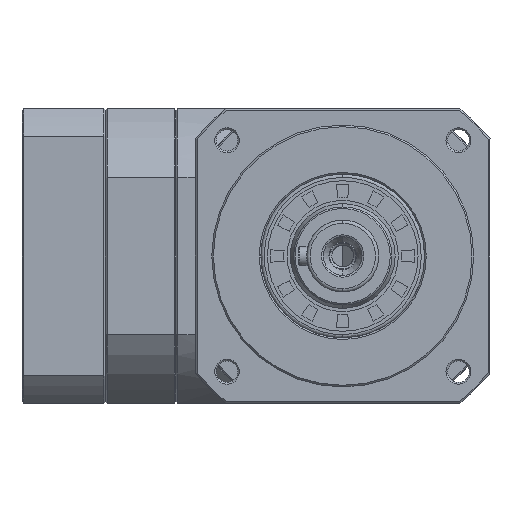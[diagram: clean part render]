
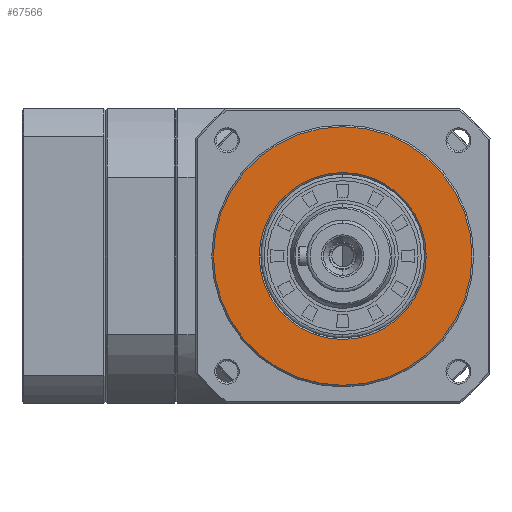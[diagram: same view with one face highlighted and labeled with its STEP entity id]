
A CAD part, left-side view. The second image highlights one B-rep face of the part: STEP entity #67566.
In plain terms, the highlighted planar face has unit normal (-1, 0, 0).
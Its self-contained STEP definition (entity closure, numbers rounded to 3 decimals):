
#3720 = DIRECTION ( 'NONE',  ( -1., 0., 0. ) ) ;
#4456 = CARTESIAN_POINT ( 'NONE',  ( 0., 0., -25.5 ) ) ;
#6490 = CIRCLE ( 'NONE', #56086, 39.5 ) ;
#7104 = VERTEX_POINT ( 'NONE', #82522 ) ;
#10595 = ORIENTED_EDGE ( 'NONE', *, *, #92698, .T. ) ;
#11168 = DIRECTION ( 'NONE',  ( 0., 0., -1. ) ) ;
#11814 = CARTESIAN_POINT ( 'NONE',  ( 0., -39.974, 39.974 ) ) ;
#11929 = DIRECTION ( 'NONE',  ( -1., 0., 0. ) ) ;
#12105 = DIRECTION ( 'NONE',  ( 0., 0., 1. ) ) ;
#15037 = ORIENTED_EDGE ( 'NONE', *, *, #78787, .F. ) ;
#16998 = FACE_OUTER_BOUND ( 'NONE', #40376, .T. ) ;
#18705 = PLANE ( 'NONE',  #81249 ) ;
#18746 = EDGE_CURVE ( 'NONE', #7104, #25894, #6490, .T. ) ;
#21996 = CIRCLE ( 'NONE', #22295, 39.5 ) ;
#22295 = AXIS2_PLACEMENT_3D ( 'NONE', #33266, #11929, #83084 ) ;
#25534 = CARTESIAN_POINT ( 'NONE',  ( 0., 0., 25.5 ) ) ;
#25894 = VERTEX_POINT ( 'NONE', #26525 ) ;
#26525 = CARTESIAN_POINT ( 'NONE',  ( 0., 0., -39.5 ) ) ;
#28411 = VERTEX_POINT ( 'NONE', #4456 ) ;
#29100 = ORIENTED_EDGE ( 'NONE', *, *, #18746, .T. ) ;
#32238 = CARTESIAN_POINT ( 'NONE',  ( 0., 0., 0. ) ) ;
#33266 = CARTESIAN_POINT ( 'NONE',  ( 0., 0., 0. ) ) ;
#39717 = DIRECTION ( 'NONE',  ( 0., 0., -1. ) ) ;
#40027 = CARTESIAN_POINT ( 'NONE',  ( 0., 0., 0. ) ) ;
#40376 = EDGE_LOOP ( 'NONE', ( #10595, #29100 ) ) ;
#47206 = DIRECTION ( 'NONE',  ( -1., 0., 0. ) ) ;
#49573 = FACE_BOUND ( 'NONE', #78073, .T. ) ;
#53820 = DIRECTION ( 'NONE',  ( 0., 0., 1. ) ) ;
#55037 = DIRECTION ( 'NONE',  ( -1., 0., 0. ) ) ;
#56086 = AXIS2_PLACEMENT_3D ( 'NONE', #90235, #47206, #39717 ) ;
#62958 = VERTEX_POINT ( 'NONE', #25534 ) ;
#64853 = ORIENTED_EDGE ( 'NONE', *, *, #85520, .F. ) ;
#67566 = ADVANCED_FACE ( 'NONE', ( #49573, #16998 ), #18705, .F. ) ;
#68686 = CIRCLE ( 'NONE', #71232, 25.5 ) ;
#71232 = AXIS2_PLACEMENT_3D ( 'NONE', #40027, #55037, #12105 ) ;
#71469 = AXIS2_PLACEMENT_3D ( 'NONE', #32238, #3720, #53820 ) ;
#72963 = CIRCLE ( 'NONE', #71469, 25.5 ) ;
#78073 = EDGE_LOOP ( 'NONE', ( #15037, #64853 ) ) ;
#78787 = EDGE_CURVE ( 'NONE', #62958, #28411, #72963, .T. ) ;
#81249 = AXIS2_PLACEMENT_3D ( 'NONE', #11814, #90562, #11168 ) ;
#82522 = CARTESIAN_POINT ( 'NONE',  ( 0., 0., 39.5 ) ) ;
#83084 = DIRECTION ( 'NONE',  ( 0., 0., -1. ) ) ;
#85520 = EDGE_CURVE ( 'NONE', #28411, #62958, #68686, .T. ) ;
#90235 = CARTESIAN_POINT ( 'NONE',  ( 0., 0., 0. ) ) ;
#90562 = DIRECTION ( 'NONE',  ( 1., 0., 0. ) ) ;
#92698 = EDGE_CURVE ( 'NONE', #25894, #7104, #21996, .T. ) ;
